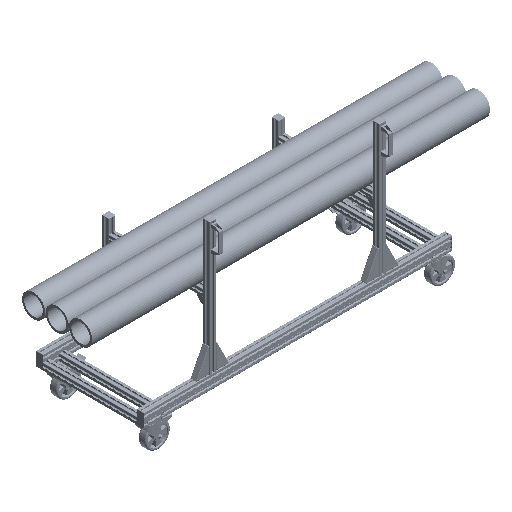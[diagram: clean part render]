
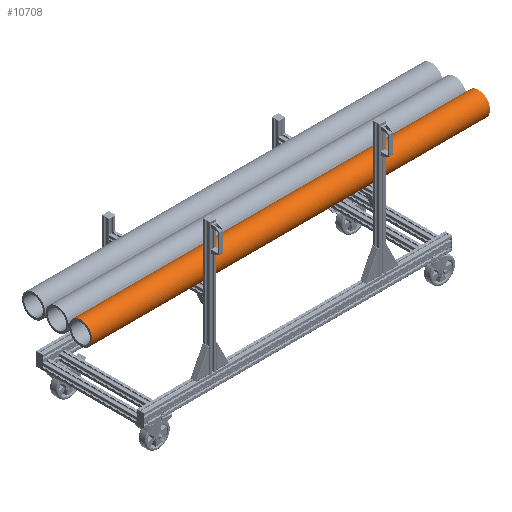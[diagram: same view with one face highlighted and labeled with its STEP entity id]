
A CAD part, isometric view. The second image highlights one B-rep face of the part: STEP entity #10708.
In plain terms, the highlighted cylindrical face has radius 75 mm (diameter 150 mm), a full revolution.
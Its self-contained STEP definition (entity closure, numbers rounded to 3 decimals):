
#10708=ADVANCED_FACE('',(#22337,#22338),#22339,.T.);
#22337=FACE_OUTER_BOUND('',#39749,.T.);
#22338=FACE_OUTER_BOUND('',#39750,.T.);
#22339=CYLINDRICAL_SURFACE('',#39751,75.0);
#39749=EDGE_LOOP('',(#62425));
#39750=EDGE_LOOP('',(#62426));
#39751=AXIS2_PLACEMENT_3D('',#62427,#62428,#62429);
#62425=ORIENTED_EDGE('',*,*,#114085,.T.);
#62426=ORIENTED_EDGE('',*,*,#114086,.F.);
#62427=CARTESIAN_POINT('',(-1290.0,-230.0,825.0));
#62428=DIRECTION('',(1.0,0.0,0.0));
#62429=DIRECTION('',(0.0,1.0,0.0));
#114085=EDGE_CURVE('',#134701,#134701,#134702,.T.);
#114086=EDGE_CURVE('',#134703,#134703,#134704,.T.);
#134701=VERTEX_POINT('',#165342);
#134702=CIRCLE('',#165343,75.0);
#134703=VERTEX_POINT('',#165344);
#134704=CIRCLE('',#165345,75.0);
#165342=CARTESIAN_POINT('',(-1290.0,-155.0,825.0));
#165343=AXIS2_PLACEMENT_3D('',#219652,#219653,#219654);
#165344=CARTESIAN_POINT('',(1290.0,-155.0,825.0));
#165345=AXIS2_PLACEMENT_3D('',#219655,#219656,#219657);
#219652=CARTESIAN_POINT('',(-1290.0,-230.0,825.0));
#219653=DIRECTION('',(1.0,0.0,0.0));
#219654=DIRECTION('',(0.0,1.0,0.0));
#219655=CARTESIAN_POINT('',(1290.0,-230.0,825.0));
#219656=DIRECTION('',(1.0,0.0,0.0));
#219657=DIRECTION('',(0.0,1.0,0.0));
